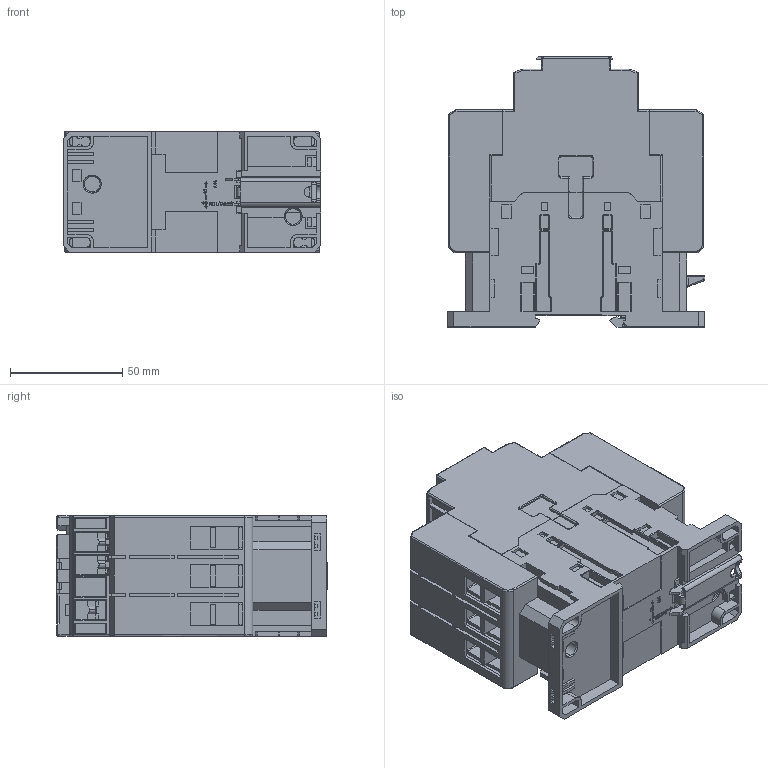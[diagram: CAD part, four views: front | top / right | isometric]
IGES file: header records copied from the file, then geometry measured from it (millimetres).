
Start section: SolidWorks IGES file using analytic representation for surfaces
Global section: file name: Q:\GROUPS\BR_SC_JGS_WA_TECNICO\ENG\Usuarios\Rodrigob\conversão\contatores\Produto\CWB40...80\CWB40...80.IGS; native system: SolidWorks 2016; preprocessor: SolidWorks 2016; author: rodrigob; date: 171006.085800; units: millimetre
Bounding box: 115 x 120.6 x 53.8 mm (x, y, z)
Surface area: 133002.6 mm2 (no closed solid volume)
Topology: 0 solids, 0 shells, 2659 faces, 20939 edges, 20901 vertices
Faces by surface type: bspline 2021, revolution 638
